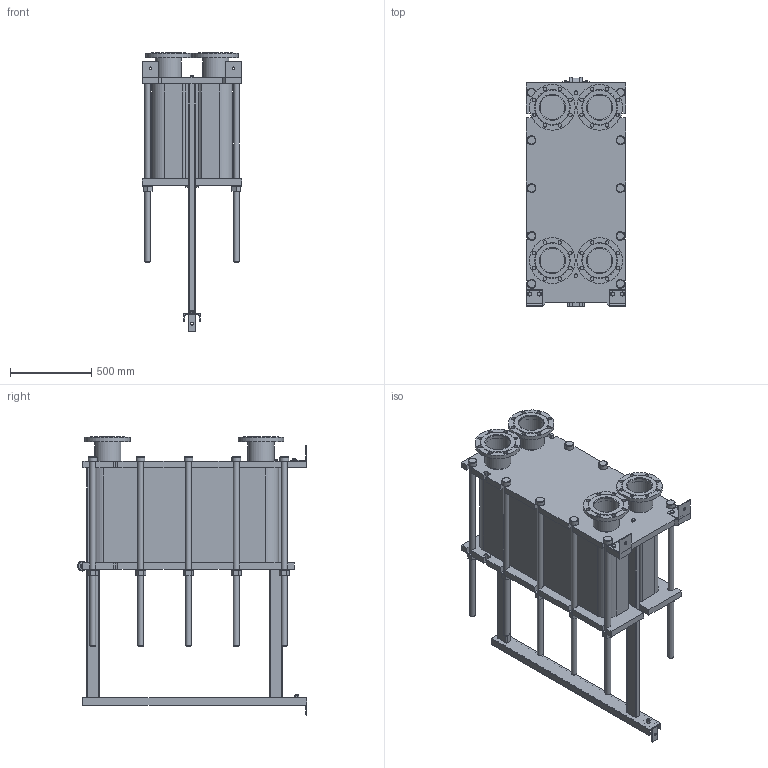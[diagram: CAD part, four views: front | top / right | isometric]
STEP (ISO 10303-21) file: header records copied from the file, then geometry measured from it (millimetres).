
FILE_DESCRIPTION(/* description */ (''),/* implementation_level */ '2;1');
FILE_NAME(/* name */ 'C:\Users\zhuro\Desktop\ENCO\TO\ЭН-041\ЭН-0,5-041-169-1.stp',/* time_stamp */ '2022-06-06T11:04:30+03:00',/* author */ ('zhuro'),/* organization */ (''),/* preprocessor_version */ 'ST-DEVELOPER v18.1',/* originating_system */ 'Autodesk Inventor 2022',/* authorisation */ '');
FILE_SCHEMA (('AUTOMOTIVE_DESIGN { 1 0 10303 214 3 1 1 }'));
Length unit declared in the file: millimetre
Products named in the file (1): ЭН-0,5-041-169-1
Bounding box: 610 x 1406.5 x 1707.5 mm (x, y, z)
Volume: 413251013.8 mm3; surface area: 10545904.5 mm2
Topology: 52 solids, 52 shells, 711 faces, 1696 edges, 1094 vertices
Faces by surface type: plane 487, cylinder 177, cone 41, torus 6
Full cylindrical faces by diameter (mm): 8 x4, 10 x2, 16 x8, 18 x3, 22 x32, 36 x24, 50 x1, 54 x10, 60 x12, 151 x4, 161 x8, 280 x4
Entity records: 22667 total; most frequent: CARTESIAN_POINT 5230, DIRECTION 3644, ORIENTED_EDGE 3392, EDGE_CURVE 1696, AXIS2_PLACEMENT_3D 1272, LINE 1100, VECTOR 1100, VERTEX_POINT 1094
